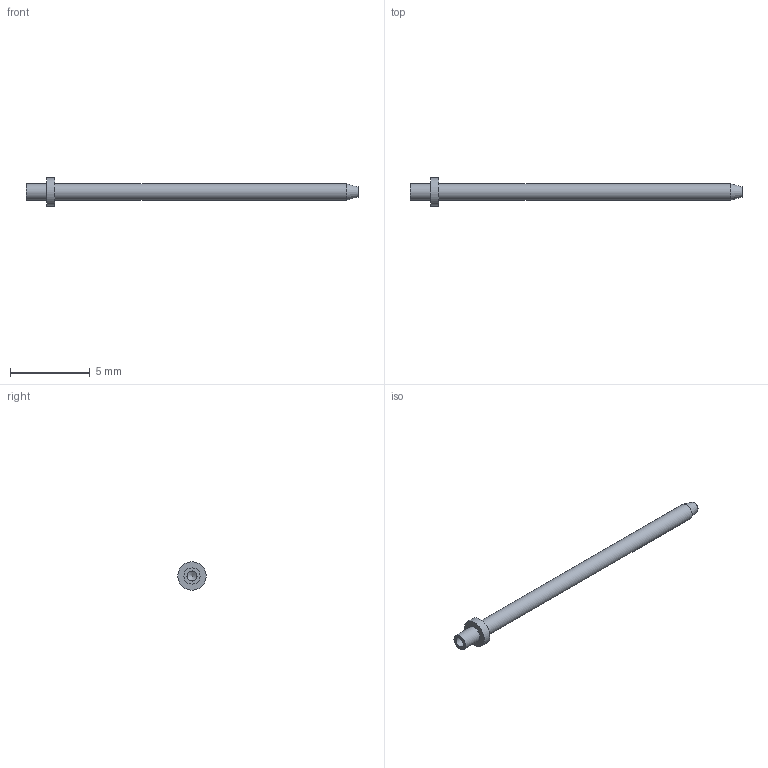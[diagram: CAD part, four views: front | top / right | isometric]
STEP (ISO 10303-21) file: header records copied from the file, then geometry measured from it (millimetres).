
FILE_DESCRIPTION(/* description */ (''),/* implementation_level */ '2;1');
FILE_NAME(/* name */ 'Z:\STEP folder\460294701.ipt.stp',/* time_stamp */ '2016-12-21T13:04:37+00:00',/* author */ ('Paul Karlsons'),/* organization */ (''),/* preprocessor_version */ 'ST-DEVELOPER v15.2',/* originating_system */ 'Autodesk Inventor 2014',/* authorisation */ '');
FILE_SCHEMA (('AUTOMOTIVE_DESIGN { 1 0 10303 214 3 1 1 }'));
Length unit declared in the file: millimetre
Products named in the file (1): 460294701
Bounding box: 20.85 x 1.78 x 1.78 mm (x, y, z)
Volume: 17.2 mm3; surface area: 74 mm2
Topology: 1 solids, 1 shells, 10 faces, 16 edges, 10 vertices
Faces by surface type: cylinder 4, plane 4, cone 2
Full cylindrical faces by diameter (mm): 0.635 x1, 1.016 x2, 1.778 x1
Entity records: 215 total; most frequent: DIRECTION 40, CARTESIAN_POINT 29, AXIS2_PLACEMENT_3D 20, EDGE_LOOP 18, ORIENTED_EDGE 18, FACE_BOUND 10, ADVANCED_FACE 10, CIRCLE 9
